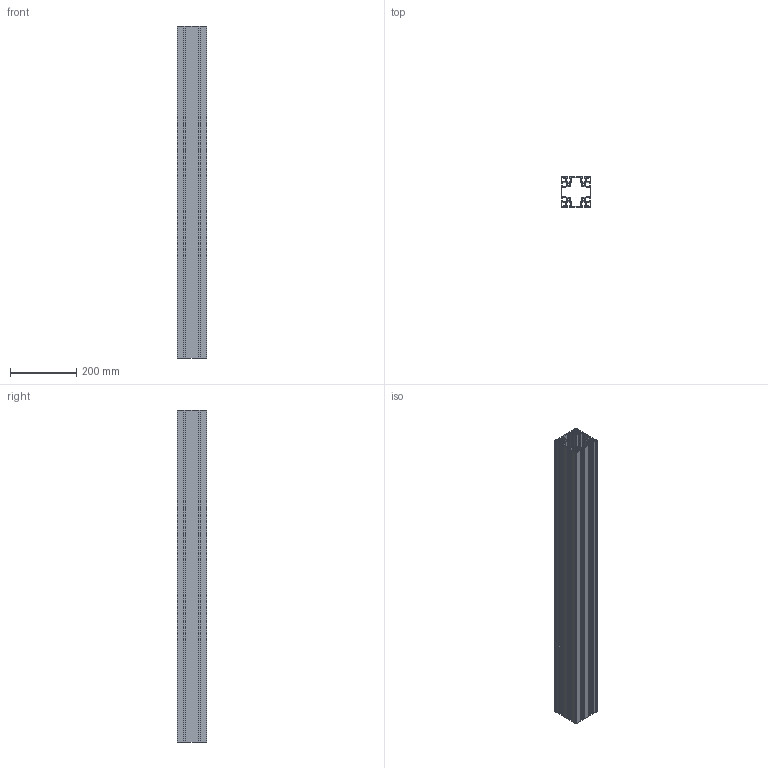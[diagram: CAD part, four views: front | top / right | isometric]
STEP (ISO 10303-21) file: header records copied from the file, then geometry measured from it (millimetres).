
FILE_DESCRIPTION (( 'STEP AP214' ), '1' );
FILE_NAME ('SA01004L.step', '2024-12-03T16:28:23', ( '' ), ( '' ), 'SwSTEP 2.0', 'SolidWorks 2023', '' );
FILE_SCHEMA (( 'AUTOMOTIVE_DESIGN' ));
Length unit declared in the file: millimetre
Products named in the file (1): SA01004L
Bounding box: 90 x 90 x 1000 mm (x, y, z)
Volume: 1341356.7 mm3; surface area: 1321462.7 mm2
Topology: 1 solids, 1 shells, 378 faces, 1128 edges, 752 vertices
Faces by surface type: plane 230, cylinder 148
Full cylindrical faces by diameter (mm): 7.45 x4
Entity records: 12767 total; most frequent: CARTESIAN_POINT 2255, ORIENTED_EDGE 2248, DIRECTION 2178, EDGE_CURVE 1124, LINE 828, VECTOR 828, VERTEX_POINT 752, AXIS2_PLACEMENT_3D 675
